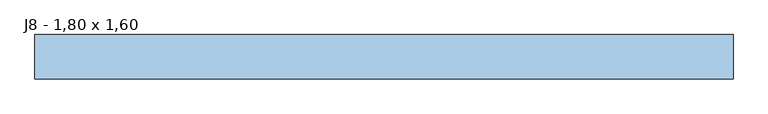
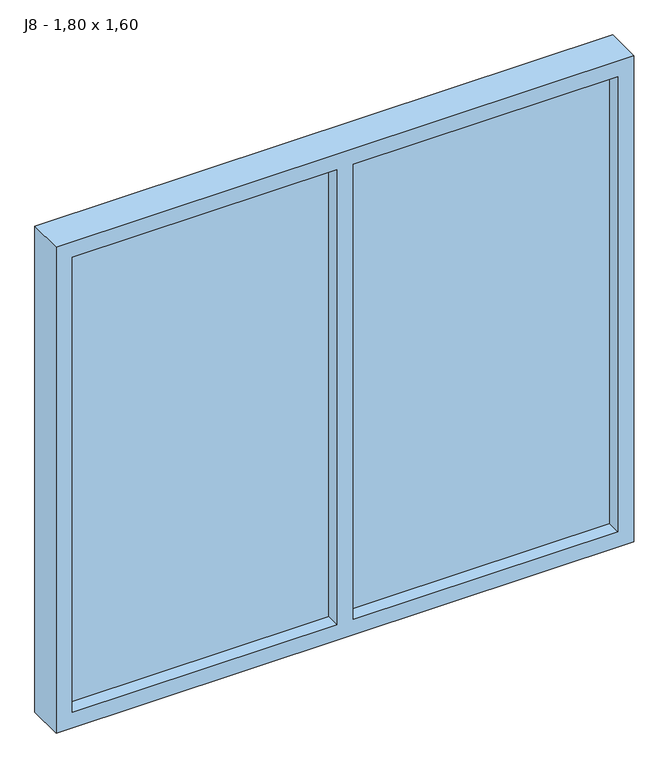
"""IFC4 building model written with IfcOpenShell, lengths in millimetres: window geometry, Abrir 2 Folhas : J8 - 1,80 x 1,60."""

from ifc_helpers import new_model, si_unit, frame, origin, place, context, project, spatial, polyline, outline, extrude, source, transform, mapped, element, save


def j8_1_80_x_1_60_cf8edf4a(model_context):
    return source(origin(), model_context, "Body", "SweptSolid", [
        extrude(outline(polyline([(-446.2, 31.7075246), (377.6, 31.7075246), (377.6, 6.3075246), (-446.2, 6.3075246), (-446.2, 31.7075246)])), frame((0.0, 0.0, 950.8), z_axis=(0.0, 0.0, 1.0), x_axis=(1.0, 0.0, 0.0)), (0.0, 0.0, 1.0), 1498.4),
        extrude(outline(polyline([(-1320.8, 31.7075246), (-497.0, 31.7075246), (-497.0, 6.3075246), (-1320.8, 6.3075246), (-1320.8, 31.7075246)])), frame((0.0, 0.0, 950.8), z_axis=(0.0, 0.0, 1.0), x_axis=(1.0, 0.0, 0.0)), (0.0, 0.0, 1.0), 1498.4),
        extrude(outline(polyline([(2500.0, -1371.6), (900.0, -1371.6), (900.0, 428.4), (2500.0, 428.4), (2500.0, -1371.6)]), holes=[polyline([(2449.2, -446.2), (2449.2, 377.6), (950.8, 377.6), (950.8, -446.2), (2449.2, -446.2)]), polyline([(2449.2, -1320.8), (2449.2, -497.0), (950.8, -497.0), (950.8, -1320.8), (2449.2, -1320.8)])]), frame((0.0, -38.1424754, 0.0), z_axis=(0.0, 1.0, 0.0), x_axis=(0.0, 0.0, 1.0)), (0.0, 0.0, 1.0), 114.3),
    ])


if __name__ == "__main__":
    model = new_model("IFC4")
    model_context = context("Model", 3, world=origin())
    ifc_project = project(units=[si_unit("LENGTHUNIT", "METRE", prefix="MILLI")], contexts=[model_context])
    site = spatial("IfcSite", under=ifc_project)
    building = spatial("IfcBuilding", under=site)
    placement = place(None, origin())
    j8_1_80_x_1_60_shape = j8_1_80_x_1_60_cf8edf4a(model_context)
    element("IfcWindow", 1, ObjectType="Abrir 2 Folhas : J8 - 1,80 x 1,60", at=placement, inside=building, context=model_context, shape_type="MappedRepresentation", body=[
        mapped(j8_1_80_x_1_60_shape, transform((0.0, 0.0, 0.0), x_axis=(1.0, 0.0, 0.0), y_axis=(0.0, 1.0, 0.0), z_axis=(0.0, 0.0, 1.0))),
    ])
    save(model, "model.ifc")
